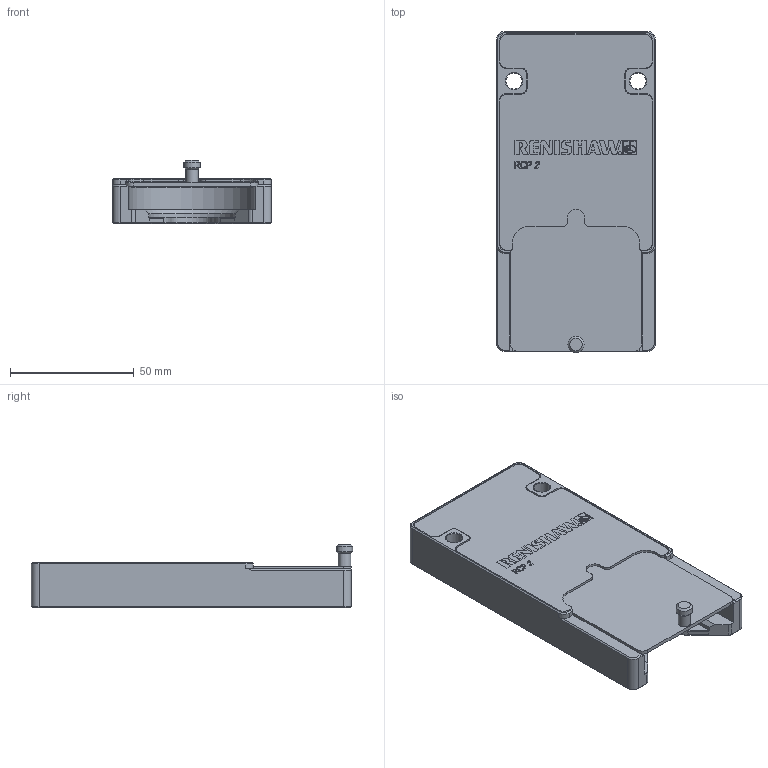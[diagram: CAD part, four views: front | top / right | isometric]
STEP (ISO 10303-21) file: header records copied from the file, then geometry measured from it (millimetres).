
FILE_DESCRIPTION(/* description */ (''),/* implementation_level */ '2;1');
FILE_NAME(/* name */ 'LA-3061-2300#-B.stp',/* time_stamp */ '2012-09-06T15:33:19+01:00',/* author */ (''),/* organization */ (''),/* preprocessor_version */ 'ST-DEVELOPER v11',/* originating_system */ 'SIEMENS PLM Software NX 7.5',/* authorisation */ '');
FILE_SCHEMA (('AUTOMOTIVE_DESIGN { 1 0 10303 214 1 1 1 1 }'));
Length unit declared in the file: millimetre
Products named in the file (1): rt134014x51d
Bounding box: 64 x 129.5 x 25.5 mm (x, y, z)
Volume: 107618.2 mm3; surface area: 39358.2 mm2
Topology: 2 solids, 3 shells, 228 faces, 676 edges, 490 vertices
Faces by surface type: plane 134, cylinder 66, cone 27, torus 1
Full cylindrical faces by diameter (mm): 2.15 x1, 2.54 x1, 5 x1, 6.5 x3, 11 x2
Entity records: 9651 total; most frequent: CARTESIAN_POINT 1943, ORIENTED_EDGE 1304, DIRECTION 1180, EDGE_CURVE 652, VERTEX_POINT 484, AXIS2_PLACEMENT_3D 411, LINE 358, VECTOR 358
